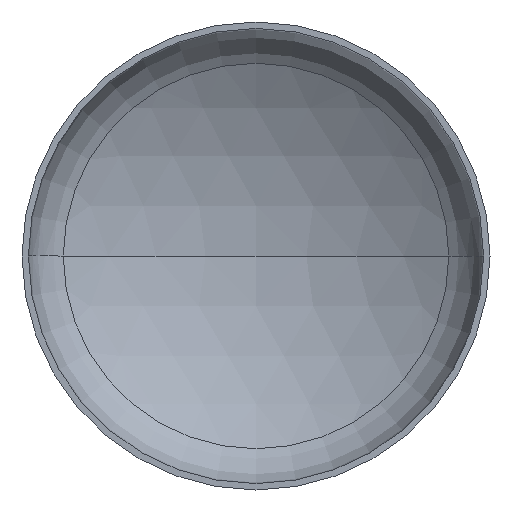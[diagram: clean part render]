
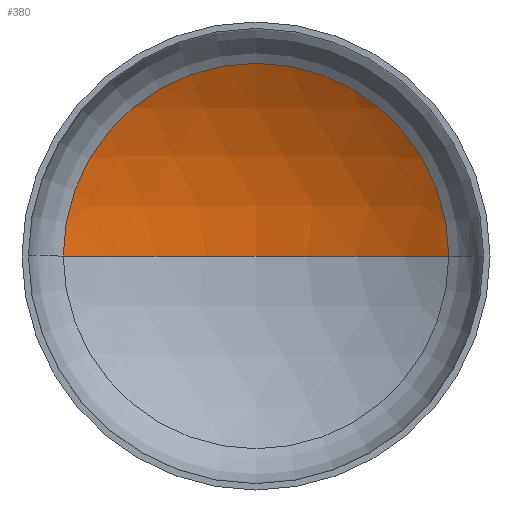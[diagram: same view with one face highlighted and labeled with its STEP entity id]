
A CAD part, front view. The second image highlights one B-rep face of the part: STEP entity #380.
In plain terms, the highlighted spherical face has radius 406 mm.
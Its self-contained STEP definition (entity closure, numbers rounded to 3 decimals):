
#9 = VERTEX_POINT ( 'NONE', #280 ) ;
#12 = EDGE_LOOP ( 'NONE', ( #81, #18, #68 ) ) ;
#18 = ORIENTED_EDGE ( 'NONE', *, *, #304, .T. ) ;
#23 = CARTESIAN_POINT ( 'NONE',  ( 0., -256.11, 0. ) ) ;
#28 = VERTEX_POINT ( 'NONE', #359 ) ;
#68 = ORIENTED_EDGE ( 'NONE', *, *, #321, .T. ) ;
#81 = ORIENTED_EDGE ( 'NONE', *, *, #283, .F. ) ;
#100 = CARTESIAN_POINT ( 'NONE',  ( 0., -256.11, 0. ) ) ;
#103 = DIRECTION ( 'NONE',  ( -1., 0., 0. ) ) ;
#129 = DIRECTION ( 'NONE',  ( 0., 0., -1. ) ) ;
#149 = CIRCLE ( 'NONE', #259, 209.189 ) ;
#152 = CARTESIAN_POINT ( 'NONE',  ( 0., 91.849, 0. ) ) ;
#154 = CARTESIAN_POINT ( 'NONE',  ( 0., -256.11, 0. ) ) ;
#189 = AXIS2_PLACEMENT_3D ( 'NONE', #154, #129, #311 ) ;
#190 = DIRECTION ( 'NONE',  ( 0., 0., -1. ) ) ;
#208 = AXIS2_PLACEMENT_3D ( 'NONE', #100, #386, #243 ) ;
#212 = CARTESIAN_POINT ( 'NONE',  ( 0., 149.89, 0. ) ) ;
#243 = DIRECTION ( 'NONE',  ( 1., 0., 0. ) ) ;
#259 = AXIS2_PLACEMENT_3D ( 'NONE', #152, #363, #408 ) ;
#280 = CARTESIAN_POINT ( 'NONE',  ( 209.189, 91.849, 0. ) ) ;
#283 = EDGE_CURVE ( 'NONE', #319, #28, #409, .T. ) ;
#304 = EDGE_CURVE ( 'NONE', #319, #9, #357, .T. ) ;
#311 = DIRECTION ( 'NONE',  ( -1., 0., 0. ) ) ;
#319 = VERTEX_POINT ( 'NONE', #212 ) ;
#321 = EDGE_CURVE ( 'NONE', #9, #28, #149, .T. ) ;
#333 = SPHERICAL_SURFACE ( 'NONE', #378, 406. ) ;
#357 = CIRCLE ( 'NONE', #189, 406. ) ;
#359 = CARTESIAN_POINT ( 'NONE',  ( -209.189, 91.849, 0. ) ) ;
#363 = DIRECTION ( 'NONE',  ( 0., -1., 0. ) ) ;
#378 = AXIS2_PLACEMENT_3D ( 'NONE', #23, #190, #103 ) ;
#380 = ADVANCED_FACE ( 'NONE', ( #397 ), #333, .F. ) ;
#386 = DIRECTION ( 'NONE',  ( 0., 0., 1. ) ) ;
#397 = FACE_OUTER_BOUND ( 'NONE', #12, .T. ) ;
#408 = DIRECTION ( 'NONE',  ( 1., 0., 0. ) ) ;
#409 = CIRCLE ( 'NONE', #208, 406. ) ;
